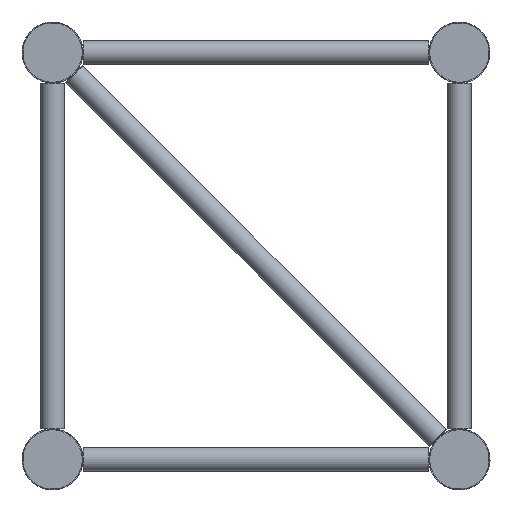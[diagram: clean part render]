
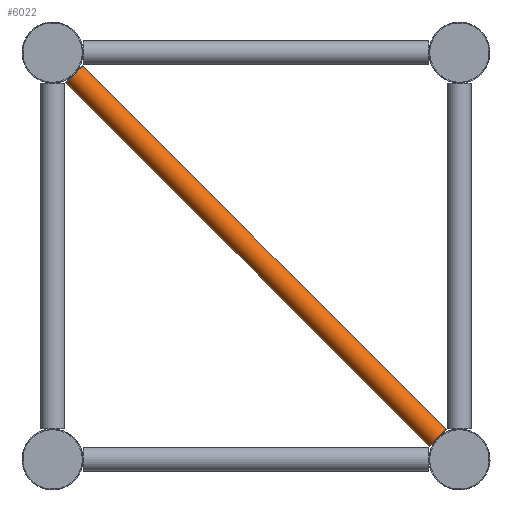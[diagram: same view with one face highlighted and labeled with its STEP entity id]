
A CAD part, left-side view. The second image highlights one B-rep face of the part: STEP entity #6022.
In plain terms, the highlighted cylindrical face has radius 10 mm (diameter 20 mm), a full revolution.
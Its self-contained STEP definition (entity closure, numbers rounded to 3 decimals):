
#988=FACE_BOUND('',#1708,.T.);
#1236=CYLINDRICAL_SURFACE('',#6409,10.);
#1329=FACE_OUTER_BOUND('',#1707,.T.);
#1707=EDGE_LOOP('',(#3747));
#1708=EDGE_LOOP('',(#3748));
#2326=CIRCLE('',#6408,10.);
#2327=CIRCLE('',#6410,10.);
#2398=VERTEX_POINT('',#8671);
#2399=VERTEX_POINT('',#8674);
#2950=EDGE_CURVE('',#2398,#2398,#2326,.T.);
#2951=EDGE_CURVE('',#2399,#2399,#2327,.T.);
#3747=ORIENTED_EDGE('',*,*,#2950,.T.);
#3748=ORIENTED_EDGE('',*,*,#2951,.T.);
#6022=ADVANCED_FACE('',(#1329,#988),#1236,.T.);
#6408=AXIS2_PLACEMENT_3D('',#8672,#7093,#7094);
#6409=AXIS2_PLACEMENT_3D('',#8673,#7095,#7096);
#6410=AXIS2_PLACEMENT_3D('',#8675,#7097,#7098);
#7093=DIRECTION('center_axis',(0.,0.707,
0.707));
#7094=DIRECTION('ref_axis',(0.,0.707,-0.707));
#7095=DIRECTION('center_axis',(0.,0.707,
0.707));
#7096=DIRECTION('ref_axis',(0.,0.707,-0.707));
#7097=DIRECTION('center_axis',(0.,-0.707,
-0.707));
#7098=DIRECTION('ref_axis',(0.,0.707,-0.707));
#8671=CARTESIAN_POINT('',(60.,10.967,-313.891));
#8672=CARTESIAN_POINT('Origin',(60.,18.038,-320.962));
#8673=CARTESIAN_POINT('Origin',(60.,169.5,-169.5));
#8674=CARTESIAN_POINT('',(60.,313.891,-10.967));
#8675=CARTESIAN_POINT('Origin',(60.,320.962,-18.038));
